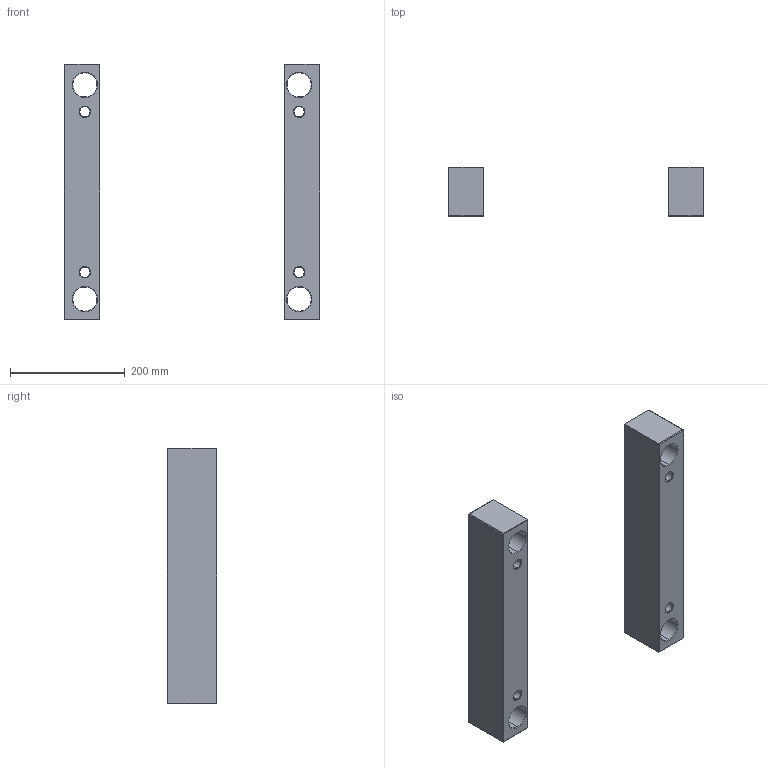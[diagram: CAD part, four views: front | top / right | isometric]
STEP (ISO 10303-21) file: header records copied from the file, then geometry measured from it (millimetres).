
FILE_DESCRIPTION (( 'STEP AP214' ), '1' );
FILE_NAME ('ESP-EU-446X446x86.STEP', '2020-04-16T11:49:05', ( 'August' ), ( '' ), 'SwSTEP 2.0', 'SolidWorks 2018', '' );
FILE_SCHEMA (( 'AUTOMOTIVE_DESIGN' ));
Length unit declared in the file: millimetre
Products named in the file (1): ESP-EU-446X446x86
Bounding box: 446 x 86 x 446 mm (x, y, z)
Volume: 4188878.4 mm3; surface area: 333431 mm2
Topology: 2 solids, 2 shells, 100 faces, 208 edges, 112 vertices
Faces by surface type: plane 52, cone 32, cylinder 16
Entity records: 2631 total; most frequent: DIRECTION 474, CARTESIAN_POINT 421, ORIENTED_EDGE 416, EDGE_CURVE 208, AXIS2_PLACEMENT_3D 165, VECTOR 144, LINE 144, EDGE_LOOP 116
